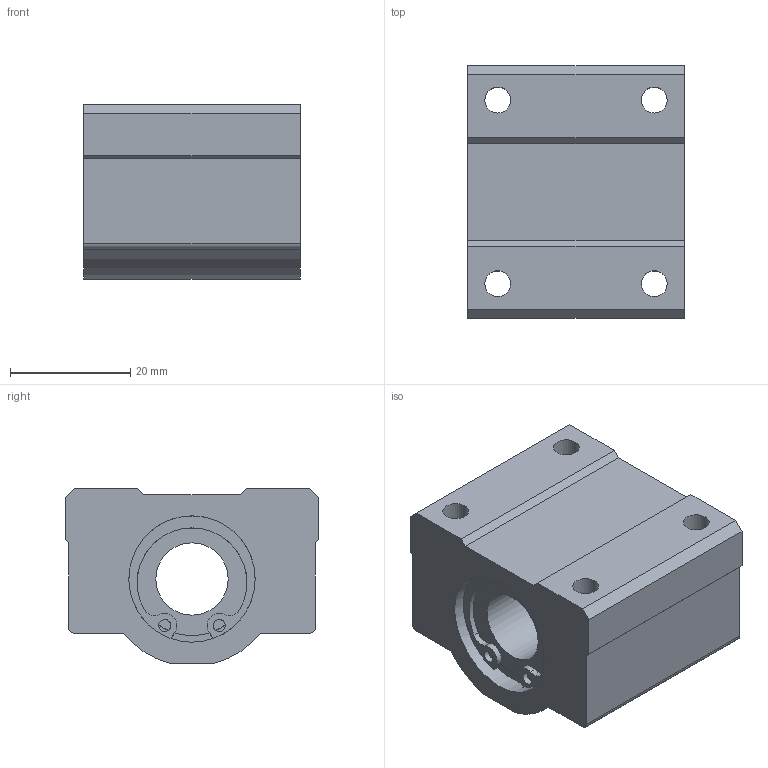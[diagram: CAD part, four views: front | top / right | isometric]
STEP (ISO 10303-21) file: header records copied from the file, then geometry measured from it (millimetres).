
FILE_DESCRIPTION((''),'2;1');
FILE_NAME('D:\製品 (図面)\カタログ用3D\リニアベアリング関連(改)\STEP形式\LH-B\LH12B.stp','2010-01-25T10:19:01',('Tsuchiya'),(''),'Autodesk Inventor 10','Autodesk Inventor 10','');
FILE_SCHEMA(('AUTOMOTIVE_DESIGN { 1 0 10303 214 1 1 1 1 }'));
Length unit declared in the file: millimetre
Products named in the file (1): LH12B
Bounding box: 36 x 42 x 29 mm (x, y, z)
Volume: 31281.5 mm3; surface area: 10002.6 mm2
Topology: 1 solids, 3 shells, 77 faces, 203 edges, 130 vertices
Faces by surface type: plane 40, cylinder 20, bspline 17
Full cylindrical faces by diameter (mm): 2 x2, 12 x1, 18.8 x2, 20 x2, 21 x4
Entity records: 2416 total; most frequent: CARTESIAN_POINT 575, DIRECTION 390, ORIENTED_EDGE 348, EDGE_CURVE 174, AXIS2_PLACEMENT_3D 155, VERTEX_POINT 118, EDGE_LOOP 114, CIRCLE 94
